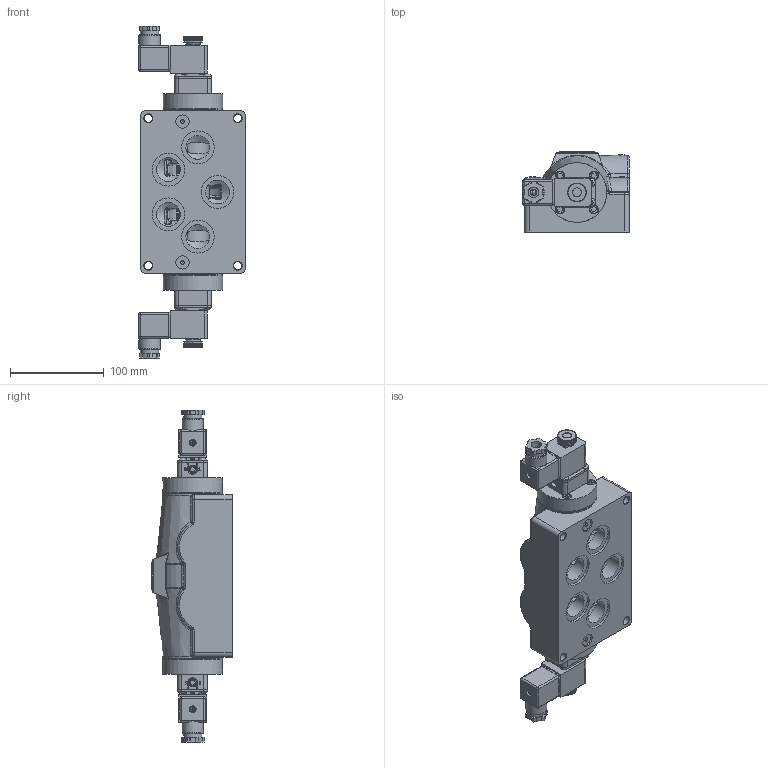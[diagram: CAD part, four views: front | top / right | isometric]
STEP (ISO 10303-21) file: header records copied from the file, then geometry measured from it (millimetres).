
FILE_DESCRIPTION(/* description */ (''),/* implementation_level */ '2;1');
FILE_NAME(/* name */ 'D:\Website Files\stp\Valves\Standard\ESY\ESY8PAL.stp',/* time_stamp */ '2016-02-26T13:29:49-05:00',/* author */ ('RMcKenna'),/* organization */ (''),/* preprocessor_version */ 'ST-DEVELOPER v15.6',/* originating_system */ 'Autodesk Inventor 2015',/* authorisation */ '');
FILE_SCHEMA (('AUTOMOTIVE_DESIGN { 1 0 10303 214 3 1 1 }'));
Products named in the file (1): Part9
Bounding box: 113.22 x 85.69 x 353.77 mm (x, y, z)
Volume: 1274099 mm3; surface area: 250964.4 mm2
Topology: 4 solids, 50 shells, 3599 faces, 9019 edges, 5698 vertices
Faces by surface type: plane 1718, cylinder 978, cone 360, bspline 232, torus 231, sphere 80
Full cylindrical faces by diameter (mm): 1.3 x2, 1.5 x2, 1.651 x2, 2.007 x4, 2.032 x16, 2.261 x2, 2.35 x8, 2.388 x2, 2.5 x2, 2.778 x2, 2.8 x2, 2.819 x2, 2.845 x4, 3 x8, 3.048 x6, 3.175 x4, 3.4 x2, 3.683 x8, 3.962 x4, 4.064 x2, 4.191 x4, 4.826 x8, 4.953 x2, 4.978 x9, 5.15 x8, 5.156 x8, 5.385 x2, 5.5 x2, 5.537 x2, 5.563 x2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
Entity records: 127666 total; most frequent: CARTESIAN_POINT 42280, DIRECTION 16694, ORIENTED_EDGE 16612, EDGE_CURVE 8302, AXIS2_PLACEMENT_3D 6296, VERTEX_POINT 5462, EDGE_LOOP 4380, LINE 4102
